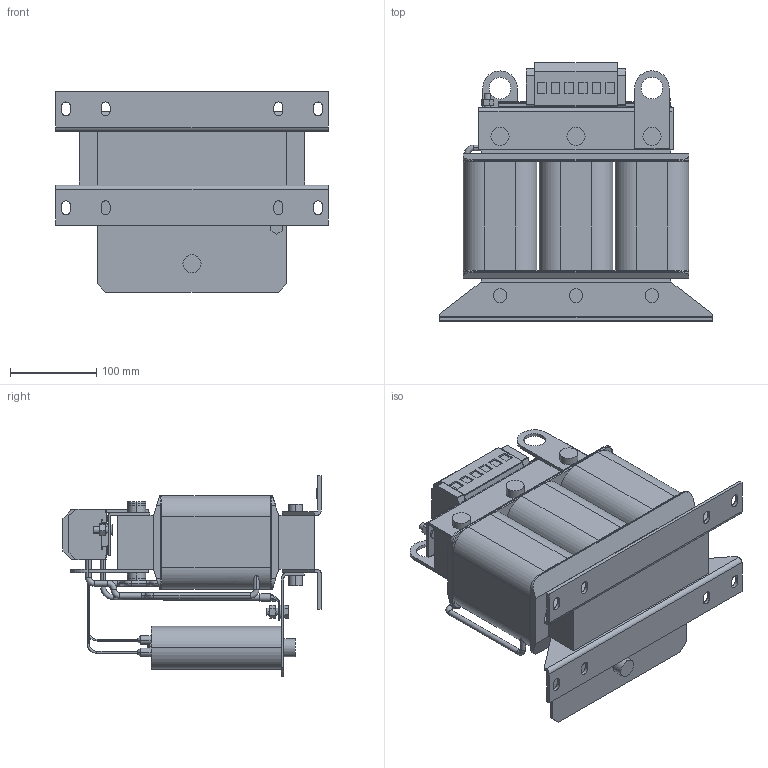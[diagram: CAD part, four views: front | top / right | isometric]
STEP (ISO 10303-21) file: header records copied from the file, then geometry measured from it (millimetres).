
FILE_DESCRIPTION (( 'STEP AP214' ), '1' );
FILE_NAME ('00Z1GX4-0019.STEP', '2022-11-16T10:14:57', ( '' ), ( '' ), 'SwSTEP 2.0', 'SolidWorks 2022', '' );
FILE_SCHEMA (( 'AUTOMOTIVE_DESIGN' ));
Length unit declared in the file: centimetre
Products named in the file (1): 00Z1GX4-0019
Bounding box: 316 x 299.1 x 232.6 mm (x, y, z)
Volume: 6016348.7 mm3; surface area: 512582.3 mm2
Topology: 1 solids, 2 shells, 761 faces, 1966 edges, 1251 vertices
Faces by surface type: plane 364, cylinder 267, torus 76, bspline 48, cone 6
Entity records: 28068 total; most frequent: CARTESIAN_POINT 9161, ORIENTED_EDGE 3916, DIRECTION 3884, EDGE_CURVE 1958, AXIS2_PLACEMENT_3D 1421, VERTEX_POINT 1251, LINE 1042, VECTOR 1042
